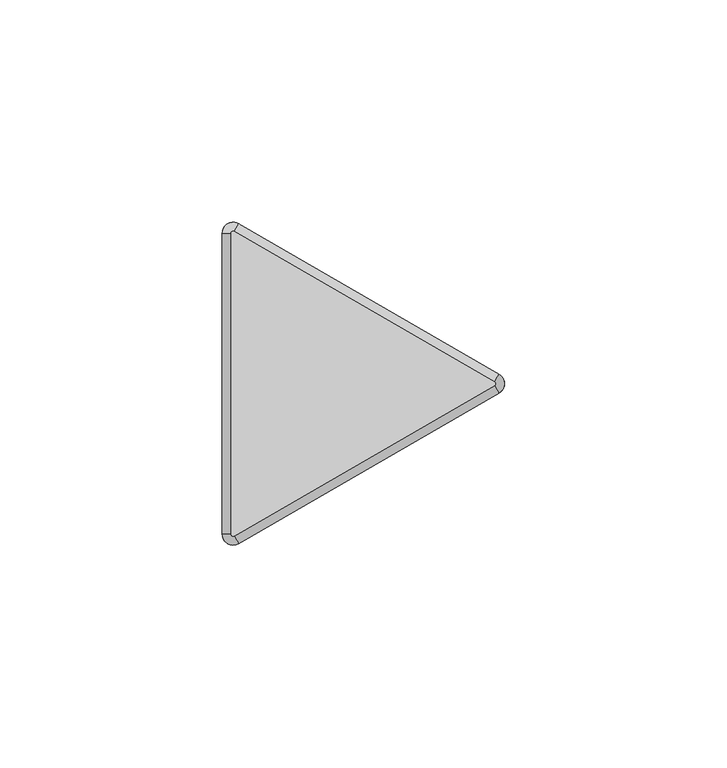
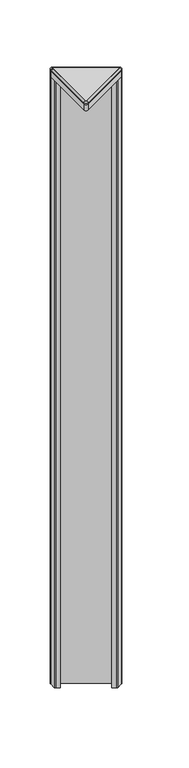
"""IFC4 building model written with IfcOpenShell, lengths in millimetres: furniture geometry, Steelcase - Answer Solution - Panel - 120deg Change-of-Height Trim - Thin : V Corner - 30H for 84H App."""

from ifc_helpers import new_model, si_unit, point, frame, frame_2d, origin, place, context, project, spatial, polyline, circle_curve, ellipse_curve, trimmed, segment, composite_curve, outline, extrude, source, transform, mapped, element, save
from ifc_brep_helpers import plane_surface, cylinder_surface, revolved_surface, advanced_brep


def furniture_9c96f61e(model_context):
    return source(origin(), model_context, "Body", "SolidModel", [
        advanced_brep(
        [(-10.518645, -37.3335529, 2290.4628978), (-14.2052101, -35.2051135, 2290.4628978), (-14.2052101, -35.2051135, 2289.5164663), (-10.518645, -37.3335529, 2289.5164663), (-11.46175, -35.7000471, 2292.35), (-12.319, -35.2051135, 2292.35), (-11.46175, -35.7000471, 2289.5164663), (-12.319, -35.2051135, 2289.5164663), (48.0429908, -3.5229767, 2289.5164663), (48.0429908, -3.5229767, 2290.4628978), (47.0998858, -1.8894709, 2292.35), (47.0998858, -1.8894709, 2289.5164663), (48.0429908, 0.733902, 2290.4628978), (48.0429908, 0.733902, 2289.5164663), (47.0998858, -0.8996038, 2292.35), (47.0998858, -0.8996038, 2289.5164663), (-10.518645, 34.5444782, 2289.5164663), (-14.2052101, 32.4160388, 2289.5164663), (-11.46175, 32.9109723, 2289.5164663), (-12.319, 32.4160388, 2289.5164663), (-10.518645, 34.5444782, 2290.4628978), (-11.46175, 32.9109723, 2292.35), (-14.2052101, 32.4160388, 2290.4628978), (-12.319, 32.4160388, 2292.35)],
        [
            (0, 1, circle_curve(frame((-11.7475, -35.2051135, 2290.4628978), z_axis=(0.0, 0.0, -1.0), x_axis=(-1.0, 0.0, 0.0)), 2.4577101)),
            (1, 2),
            (2, 3, circle_curve(frame((-11.7475, -35.2051135, 2289.5164663), z_axis=(0.0, 0.0, 1.0), x_axis=(-1.0, 0.0, 0.0)), 2.4577101)),
            (3, 0),
            (4, 5, circle_curve(frame((-11.7475, -35.2051135, 2292.35), z_axis=(0.0, 0.0, -1.0), x_axis=(-1.0, 0.0, 0.0)), 0.5715)),
            (5, 1, circle_curve(frame((-12.3181076, -35.2051135, 2290.4628978), z_axis=(0.0, -1.0, 0.0), x_axis=(1.0, 0.0, 0.0)), 1.8871024)),
            (0, 4, circle_curve(frame((-11.4621962, -35.6992743, 2290.4628978), z_axis=(-0.8660254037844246, -0.5000000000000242, 0.0), x_axis=(-0.5000000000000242, 0.8660254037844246, 0.0)), 1.8871024)),
            (6, 7, circle_curve(frame((-11.7475, -35.2051135, 2289.5164663), z_axis=(0.0, 0.0, -1.0), x_axis=(-1.0, 0.0, 0.0)), 0.5715)),
            (7, 5),
            (4, 6),
            (3, 8),
            (8, 9),
            (9, 0),
            (9, 10, circle_curve(frame((47.0994396, -1.8886981, 2290.4628978), z_axis=(-0.8660254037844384, -0.5000000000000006, 0.0), x_axis=(-0.5000000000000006, 0.8660254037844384, 0.0)), 1.8871024)),
            (10, 4),
            (10, 11),
            (11, 6),
            (12, 9, circle_curve(frame((46.8141358, -1.3945374, 2290.4628978), z_axis=(0.0, 0.0, -1.0), x_axis=(0.4999999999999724, -0.8660254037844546, 0.0)), 2.4577101)),
            (8, 13, circle_curve(frame((46.8141358, -1.3945374, 2289.5164663), z_axis=(0.0, 0.0, 1.0), x_axis=(0.4999999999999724, -0.8660254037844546, 0.0)), 2.4577101)),
            (13, 12),
            (14, 10, circle_curve(frame((46.8141358, -1.3945374, 2292.35), z_axis=(0.0, 0.0, -1.0), x_axis=(0.4999999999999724, -0.8660254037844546, 0.0)), 0.5715)),
            (12, 14, circle_curve(frame((47.0994396, -0.9003766, 2290.4628978), z_axis=(0.8660254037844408, -0.4999999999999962, 0.0), x_axis=(-0.4999999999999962, -0.8660254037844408, 0.0)), 1.8871024)),
            (15, 11, circle_curve(frame((46.8141358, -1.3945374, 2289.5164663), z_axis=(0.0, 0.0, -1.0), x_axis=(0.4999999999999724, -0.8660254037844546, 0.0)), 0.5715)),
            (14, 15),
            (16, 13),
            (2, 17),
            (17, 16, circle_curve(frame((-11.7475, 32.4160388, 2289.5164663), z_axis=(0.0, 0.0, -1.0), x_axis=(0.500000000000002, 0.8660254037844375, 0.0)), 2.4577101)),
            (15, 18),
            (18, 19, circle_curve(frame((-11.7475, 32.4160388, 2289.5164663), z_axis=(0.0, 0.0, 1.0), x_axis=(0.500000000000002, 0.8660254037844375, 0.0)), 0.5715)),
            (19, 7),
            (16, 20),
            (20, 12),
            (20, 21, circle_curve(frame((-11.4621962, 32.9101995, 2290.4628978), z_axis=(0.8660254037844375, -0.5000000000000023, 0.0), x_axis=(-0.5000000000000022, -0.8660254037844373, 0.0)), 1.8871024)),
            (21, 14),
            (21, 18),
            (22, 20, circle_curve(frame((-11.7475, 32.4160388, 2290.4628978), z_axis=(0.0, 0.0, -1.0), x_axis=(0.500000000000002, 0.8660254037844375, 0.0)), 2.4577101)),
            (17, 22),
            (23, 21, circle_curve(frame((-11.7475, 32.4160388, 2292.35), z_axis=(0.0, 0.0, -1.0), x_axis=(0.500000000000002, 0.8660254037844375, 0.0)), 0.5715)),
            (22, 23, circle_curve(frame((-12.3181076, 32.4160388, 2290.4628978), z_axis=(0.0, 1.0, 0.0), x_axis=(1.0, 0.0, 0.0)), 1.8871024)),
            (23, 19),
            (1, 22),
            (5, 23),
        ],
        [
            cylinder_surface(frame((-11.7475, -35.2051135, 0.0), z_axis=(0.0, 0.0, 1.0), x_axis=(-1.0, 0.0, 0.0)), 2.4577101),
            revolved_surface(trimmed(ellipse_curve(frame((-12.3181076, -35.2051135, 2290.4628978), z_axis=(0.0, 1.0, 0.0), x_axis=(1.0, 0.0, 0.0)), 1.8871024, 1.8871024), [point((-14.2052101, -35.2051135, 2290.4628978))], [point((-12.319, -35.2051135, 2292.35))], True, "CARTESIAN"), (-11.7475, -35.2051135, 0.0), (0.0, 0.0, 1.0)),
            revolved_surface(polyline([(-12.319, -35.2051135, 2292.35), (-12.319, -35.2051135, 2289.5164663)]), (-11.7475, -35.2051135, 0.0), (0.0, 0.0, 1.0)),
            plane_surface(frame((-10.518645, -37.3335529, 2289.5164663), z_axis=(0.5000000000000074, -0.8660254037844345, 0.0), x_axis=(0.8660254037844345, 0.5000000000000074, 0.0))),
            cylinder_surface(frame((-11.4621962, -35.6992743, 2290.4628978), z_axis=(-0.8660254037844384, -0.5000000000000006, 0.0), x_axis=(-0.5000000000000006, 0.8660254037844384, 0.0)), 1.8871024),
            plane_surface(frame((-11.46175, -35.7000471, 2292.35), z_axis=(-0.5000000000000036, 0.8660254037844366, 0.0), x_axis=(0.8660254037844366, 0.5000000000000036, 0.0))),
            cylinder_surface(frame((46.8141358, -1.3945374, 0.0), z_axis=(0.0, 0.0, 1.0), x_axis=(0.4999999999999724, -0.8660254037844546, 0.0)), 2.4577101),
            revolved_surface(trimmed(ellipse_curve(frame((47.0994396, -1.8886981, 2290.4628978), z_axis=(-0.8660254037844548, -0.499999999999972, 0.0), x_axis=(-0.499999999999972, 0.8660254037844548, 0.0)), 1.8871024, 1.8871024), [point((48.0429908, -3.5229767, 2290.4628978))], [point((47.0998858, -1.8894709, 2292.35))], True, "CARTESIAN"), (46.8141358, -1.3945374, 0.0), (0.0, 0.0, 1.0)),
            revolved_surface(polyline([(47.09988579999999, -1.8894709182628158, 2292.35), (47.09988579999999, -1.8894709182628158, 2289.5164663)]), (46.8141358, -1.3945374, 0.0), (0.0, 0.0, 1.0)),
            plane_surface(frame((47.0998858, -0.8996038, 2289.5164663), z_axis=(0.0, 0.0, -1.0000000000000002), x_axis=(-0.8660254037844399, 0.49999999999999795, 0.0))),
            plane_surface(frame((48.0429908, 0.733902, 2289.5164663), z_axis=(0.5000000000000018, 0.8660254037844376, 0.0), x_axis=(-0.8660254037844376, 0.5000000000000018, 0.0))),
            cylinder_surface(frame((47.0994396, -0.9003766, 2290.4628978), z_axis=(0.8660254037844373, -0.5000000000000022, 0.0), x_axis=(-0.5000000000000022, -0.8660254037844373, 0.0)), 1.8871024),
            plane_surface(frame((47.0998858, -0.8996038, 2292.35), z_axis=(-0.49999999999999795, -0.8660254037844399, 0.0), x_axis=(-0.8660254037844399, 0.49999999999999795, 0.0))),
            cylinder_surface(frame((-11.7475, 32.4160388, 0.0), z_axis=(0.0, 0.0, 1.0), x_axis=(0.500000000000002, 0.8660254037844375, 0.0)), 2.4577101),
            revolved_surface(trimmed(ellipse_curve(frame((-11.4621962, 32.9101995, 2290.4628978), z_axis=(0.866025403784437, -0.5000000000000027, 0.0), x_axis=(-0.5000000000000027, -0.866025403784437, 0.0)), 1.8871024, 1.8871024), [point((-10.518645, 34.5444782, 2290.4628978))], [point((-11.46175, 32.9109723, 2292.35))], True, "CARTESIAN"), (-11.7475, 32.4160388, 0.0), (0.0, 0.0, 1.0)),
            revolved_surface(polyline([(-11.461749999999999, 32.91097231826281, 2292.35), (-11.461749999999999, 32.91097231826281, 2289.5164663)]), (-11.7475, 32.4160388, 0.0), (0.0, 0.0, 1.0)),
            plane_surface(frame((-14.2052101, 32.4160388, 2289.5164663), z_axis=(-1.0, 0.0, 0.0), x_axis=(0.0, -1.0, 0.0))),
            cylinder_surface(frame((-12.3181076, 32.4160388, 2290.4628978), z_axis=(0.0, 1.0, 0.0), x_axis=(1.0, 0.0, 0.0)), 1.8871024),
            plane_surface(frame((-12.319, 32.4160388, 2292.35), z_axis=(1.0, 0.0, 0.0), x_axis=(0.0, -1.0, 0.0))),
        ],
        [
            (0, [[1, 2, 3, 4]]),
            (1, [[5, 6, -1, 7]]),
            (2, [[8, 9, -5, 10]]),
            (3, [[-4, 11, 12, 13]]),
            (4, [[-7, -13, 14, 15]]),
            (5, [[-10, -15, 16, 17]]),
            (6, [[18, -12, 19, 20]]),
            (7, [[21, -14, -18, 22]]),
            (8, [[23, -16, -21, 24]]),
            (9, [[25, -19, -11, -3, 26, 27], [-8, -17, -23, 28, 29, 30]]),
            (10, [[-20, -25, 31, 32]]),
            (11, [[-22, -32, 33, 34]]),
            (12, [[-24, -34, 35, -28]]),
            (13, [[36, -31, -27, 37]]),
            (14, [[38, -33, -36, 39]]),
            (15, [[-29, -35, -38, 40]]),
            (16, [[-37, -26, -2, 41]]),
            (17, [[-39, -41, -6, 42]]),
            (18, [[-40, -42, -9, -30]]),
        ],
    ),
        extrude(outline(composite_curve([segment(trimmed(circle_curve(frame_2d((46.8261011, -1.3945374)), 0.5655173), [point((47.1088598, -0.904785))], [point((47.1088598, -1.8842897))], False, "CARTESIAN"), True, "CONTINUOUS"), segment(polyline([(47.1088598, -1.8842897), (-11.4505119, -35.6935587)]), True, "CONTINUOUS"), segment(trimmed(circle_curve(frame_2d((-11.7400079, -35.1921369)), 0.5789921), [point((-11.4505119, -35.6935587))], [point((-12.319, -35.1921369))], False, "CARTESIAN"), True, "CONTINUOUS"), segment(polyline([(-12.319, -35.1921369), (-12.319, 32.3985888)]), True, "CONTINUOUS"), segment(trimmed(circle_curve(frame_2d((-11.7374252, 32.3985888)), 0.5815748), [point((-12.319, 32.3985888))], [point((-11.4466378, 32.9022473))], False, "CARTESIAN"), True, "CONTINUOUS"), segment(polyline([(-11.4466378, 32.9022473), (47.1088598, -0.904785)]), True, "CONTINUOUS")], self_intersect=False)), frame((0.0, 0.0, 2289.5164663), z_axis=(0.0, 0.0, 1.0), x_axis=(1.0, 0.0, 0.0)), (0.0, 0.0, 1.0), 2.8335337),
        extrude(outline(composite_curve([segment(trimmed(circle_curve(frame_2d((47.9608454, -1.3945374)), 1.2935425), [point((48.6076166, -0.2742967))], [point((48.6076166, -2.514778))], False, "CARTESIAN"), True, "CONTINUOUS"), segment(polyline([(48.6076166, -2.514778), (41.722656, -6.4898119)]), True, "CONTINUOUS"), segment(trimmed(circle_curve(frame_2d((41.0991304, -5.4098338)), 1.2470513), [point((41.722656, -6.4898119))], [point((40.4756048, -6.4898119))], False, "CARTESIAN"), True, "CONTINUOUS"), segment(polyline([(40.4756048, -6.4898119), (36.3239304, -4.0928416), (36.7811304, -3.300948), (41.0991304, -5.7939464), (47.3502407, -2.1848662)]), True, "CONTINUOUS"), segment(trimmed(circle_curve(frame_2d((46.8939441, -1.3945374)), 0.9125932), [point((47.3502407, -2.1848662))], [point((47.3502407, -0.6042085))], True, "CARTESIAN"), True, "CONTINUOUS"), segment(polyline([(47.3502407, -0.6042085), (-11.3312768, 33.2755814)]), True, "CONTINUOUS"), segment(trimmed(circle_curve(frame_2d((-11.7875179, 32.4853487)), 0.9124821), [point((-11.3312768, 33.2755814))], [point((-12.7, 32.4853487))], True, "CARTESIAN"), True, "CONTINUOUS"), segment(polyline([(-12.7, 32.4853487), (-12.7, 25.266996), (-8.382, 22.7739975), (-8.8392, 21.9821039), (-12.9583282, 24.3602837)]), True, "CONTINUOUS"), segment(trimmed(circle_curve(frame_2d((-12.3022565, 25.4966333)), 1.3121435), [point((-12.9583282, 24.3602837))], [point((-13.6144, 25.4966333))], False, "CARTESIAN"), True, "CONTINUOUS"), segment(polyline([(-13.6144, 25.4966333), (-13.6144, 33.3957138)]), True, "CONTINUOUS"), segment(trimmed(circle_curve(frame_2d((-12.3131174, 33.3957138)), 1.3012826), [point((-13.6144, 33.3957138))], [point((-11.6624761, 34.5226576))], False, "CARTESIAN"), True, "CONTINUOUS"), segment(polyline([(-11.6624761, 34.5226576), (48.6076166, -0.2742967)]), True, "CONTINUOUS")], self_intersect=False)), frame((0.0, 0.0, 1530.35), z_axis=(0.0, 0.0, 1.0), x_axis=(1.0, 0.0, 0.0)), (0.0, 0.0, 1.0), 751.84),
        extrude(outline(composite_curve([segment(trimmed(circle_curve(frame_2d((46.8140443, -1.3945374)), 2.4577558), [point((48.0429222, 0.7339416))], [point((48.0429222, -3.5230163))], False, "CARTESIAN"), True, "CONTINUOUS"), segment(polyline([(48.0429222, -3.5230163), (-10.518058, -37.333214)]), True, "CONTINUOUS"), segment(trimmed(circle_curve(frame_2d((-11.7471087, -35.2044357)), 2.4581014), [point((-10.518058, -37.333214))], [point((-14.2052101, -35.2044357))], False, "CARTESIAN"), True, "CONTINUOUS"), segment(polyline([(-14.2052101, -35.2044357), (-14.2052101, 32.4160388)]), True, "CONTINUOUS"), segment(trimmed(circle_curve(frame_2d((-11.7475, 32.4160388)), 2.4577101), [point((-14.2052101, 32.4160388))], [point((-10.518645, 34.5444782))], False, "CARTESIAN"), True, "CONTINUOUS"), segment(polyline([(-10.518645, 34.5444782), (48.0429222, 0.7339416)]), True, "CONTINUOUS")], self_intersect=False)), frame((0.0, 0.0, 2282.19), z_axis=(0.0, 0.0, 1.0), x_axis=(1.0, 0.0, 0.0)), (0.0, 0.0, 1.0), 7.3264663),
    ])


if __name__ == "__main__":
    model = new_model("IFC4")
    model_context = context("Model", 3, world=origin())
    ifc_project = project(units=[si_unit("LENGTHUNIT", "METRE", prefix="MILLI")], contexts=[model_context])
    site = spatial("IfcSite", under=ifc_project)
    building = spatial("IfcBuilding", under=site)
    placement = place(None, origin())
    furniture_shape = furniture_9c96f61e(model_context)
    element("IfcFurniture", 1, ObjectType="Steelcase - Answer Solution - Panel - 120deg Change-of-Height Trim - Thin : V Corner - 30H for 84H App", at=placement, inside=building, context=model_context, shape_type="MappedRepresentation", body=[
        mapped(furniture_shape, transform((0.0, 0.0, 0.0), x_axis=(1.0, 0.0, 0.0), y_axis=(0.0, 1.0, 0.0), z_axis=(0.0, 0.0, 1.0))),
    ])
    save(model, "model.ifc")
